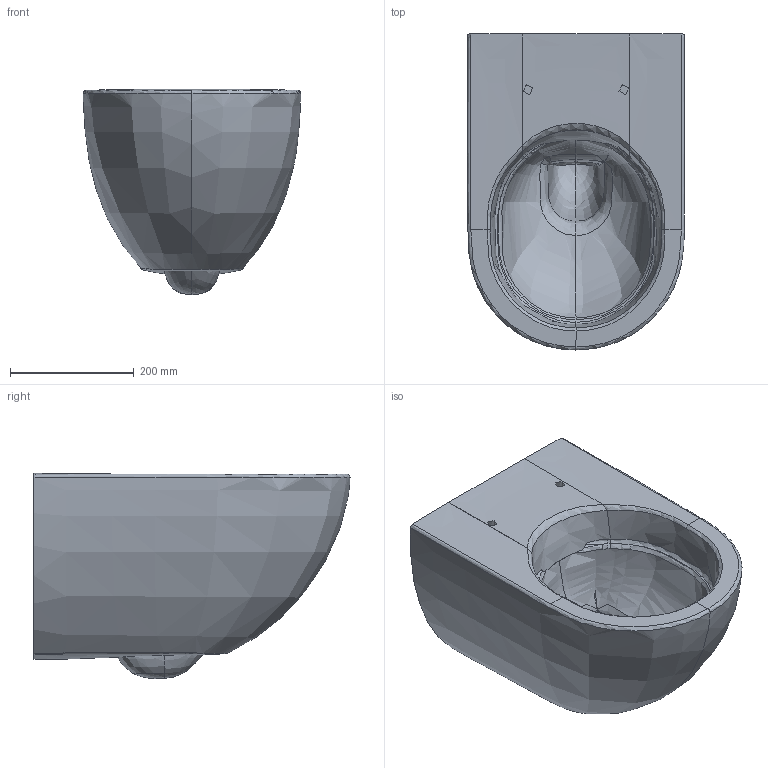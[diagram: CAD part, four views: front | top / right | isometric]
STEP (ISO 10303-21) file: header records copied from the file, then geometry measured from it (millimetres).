
FILE_DESCRIPTION(/* description */ (''),/* implementation_level */ '2;1');
FILE_NAME(/* name */ 'C:\Planerdaten\Export PLA\500.600.01.1\stp\500600.stp',/* time_stamp */ '2020-02-24T08:12:28+01:00',/* author */ ('JANAN'),/* organization */ (''),/* preprocessor_version */ 'ST-DEVELOPER v16.13',/* originating_system */ 'Autodesk Inventor 2018',/* authorisation */ '');
FILE_SCHEMA (('AUTOMOTIVE_DESIGN { 1 0 10303 214 3 1 1 }'));
Products named in the file (1): WWC-T Ge+Acn T51 Rfree
Bounding box: 350.68 x 509.95 x 331.1 mm (x, y, z)
Volume: 27033830 mm3; surface area: 772074.1 mm2
Topology: 1 solids, 1 shells, 100 faces, 250 edges, 148 vertices
Faces by surface type: bspline 87, plane 7, cylinder 6
Full cylindrical faces by diameter (mm): 17 x2, 20 x2, 50 x1, 85 x1
Entity records: 30601 total; most frequent: CARTESIAN_POINT 28808, ORIENTED_EDGE 462, EDGE_CURVE 231, B_SPLINE_CURVE_WITH_KNOTS 177, VERTEX_POINT 146, DIRECTION 117, EDGE_LOOP 113, STYLED_ITEM 101
